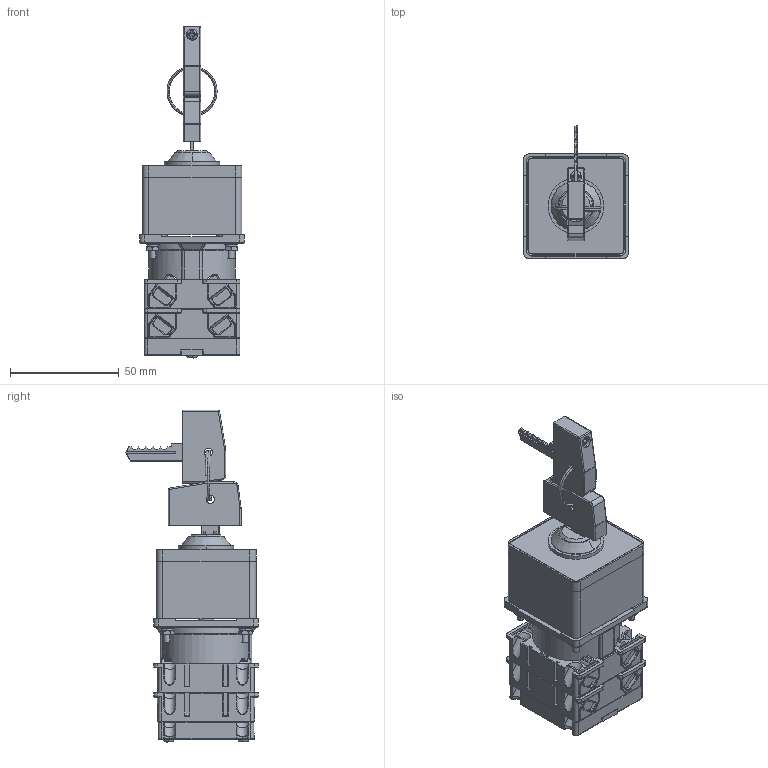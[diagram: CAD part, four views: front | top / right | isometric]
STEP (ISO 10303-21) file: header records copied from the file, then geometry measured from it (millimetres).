
FILE_DESCRIPTION (( 'STEP AP214' ), '1' );
FILE_NAME ('Ïåðåêëþ÷àòåëü 4G10-XXXX-U S5 2ê.STEP', '2022-11-25T13:27:59', ( '' ), ( '' ), 'SwSTEP 2.0', 'SolidWorks 2018', '' );
FILE_SCHEMA (( 'AUTOMOTIVE_DESIGN' ));
Length unit declared in the file: millimetre
Products named in the file (1): Ïåðåêëþ÷àòåëü 4G10-XXXX-U S5 2ê
Bounding box: 48 x 60.94 x 152.8 mm (x, y, z)
Volume: 163636.6 mm3; surface area: 78944.8 mm2
Topology: 42 solids, 58 shells, 3494 faces, 8952 edges, 5625 vertices
Faces by surface type: plane 1772, cylinder 1213, torus 226, cone 128, bspline 92, sphere 63
Entity records: 181749 total; most frequent: CARTESIAN_POINT 60062, ORIENTED_EDGE 17784, DIRECTION 16776, EDGE_CURVE 8892, AXIS2_PLACEMENT_3D 5683, VERTEX_POINT 5613, LINE 5410, VECTOR 5410
